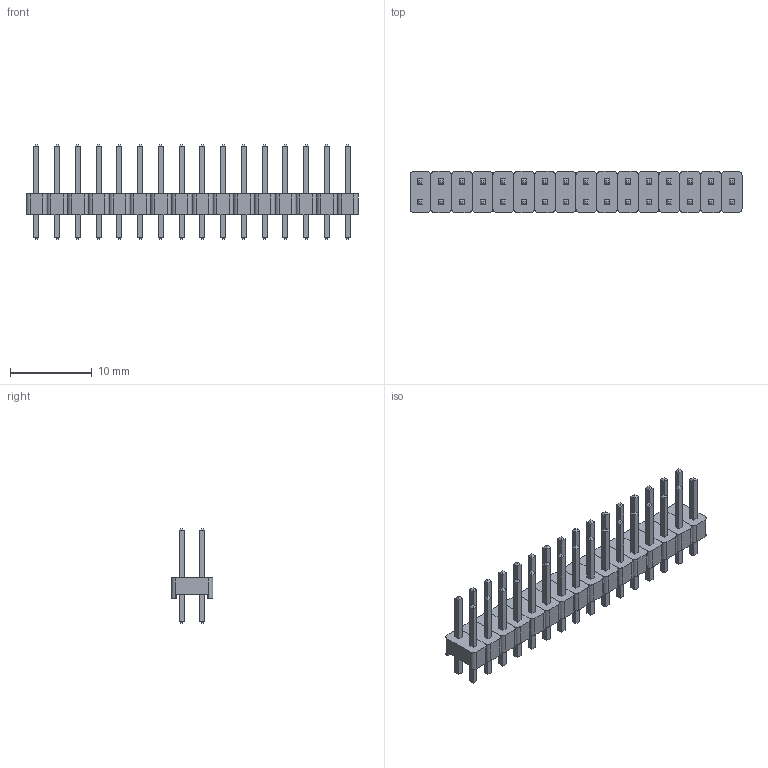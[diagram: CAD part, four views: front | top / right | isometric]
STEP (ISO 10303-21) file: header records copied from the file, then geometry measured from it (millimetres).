
FILE_DESCRIPTION(('FreeCAD Model'),'2;1');
FILE_NAME('Open CASCADE Shape Model','2022-04-06T15:59:21',( 'Engenharia Metaltex'),('Metaltex'), 'Open CASCADE STEP processor 7.5','FreeCAD','Unknown');
FILE_SCHEMA(('AUTOMOTIVE_DESIGN { 1 0 10303 214 1 1 1 1 }'));
Length unit declared in the file: millimetre
Products named in the file (65): BPDC; 16; Base015; Pino031; Pino032; 1; Base; Pino1; Pino2; 2; Base001; Pino003; Pino004; 3; Base002; Pino006; Pino005; 4; Base003; Pino008; Pino007; 5; Base004; Pino009; Pino010; 6; Base005; Pino012; Pino011; 7; Base006; Pino013; Pino014; 8; Base007; Pino015; Pino016; 9; Base008; Pino017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
Assembly tree (64 placements, depth 3):
  BPDC
    16
      Base015
      Pino031
      Pino032
    1
      Base
      Pino1
      Pino2
    2
      Base001
      Pino003
      Pino004
    3
      Base002
      Pino006
      Pino005
    4
      Base003
      Pino008
      Pino007
    5
      Base004
      Pino009
      Pino010
    6
      Base005
      Pino012
      Pino011
    7
      Base006
      Pino013
      Pino014
    8
      Base007
      Pino015
      Pino016
    9
      Base008
      Pino017
      Pino018
    10
      Base009
      Pino019
      Pino020
    11
      Base010
      Pino021
      Pino022
    12
      Base011
      Pino023
      Pino024
    13
      Base012
      Pino025
      Pino026
    14
      Base013
      Pino027
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Bounding box: 40.64 x 5.08 x 11.54 mm (x, y, z)
Volume: 558.7 mm3; surface area: 2058.1 mm2
Topology: 48 solids, 48 shells, 800 faces, 1856 edges, 1152 vertices
Faces by surface type: plane 736, cylinder 64
Entity records: 48019 total; most frequent: CARTESIAN_POINT 7969, DIRECTION 7362, LINE 5312, VECTOR 5312, ORIENTED_EDGE 3712, PCURVE 3712, DEFINITIONAL_REPRESENTATION 3712, EDGE_CURVE 1856
